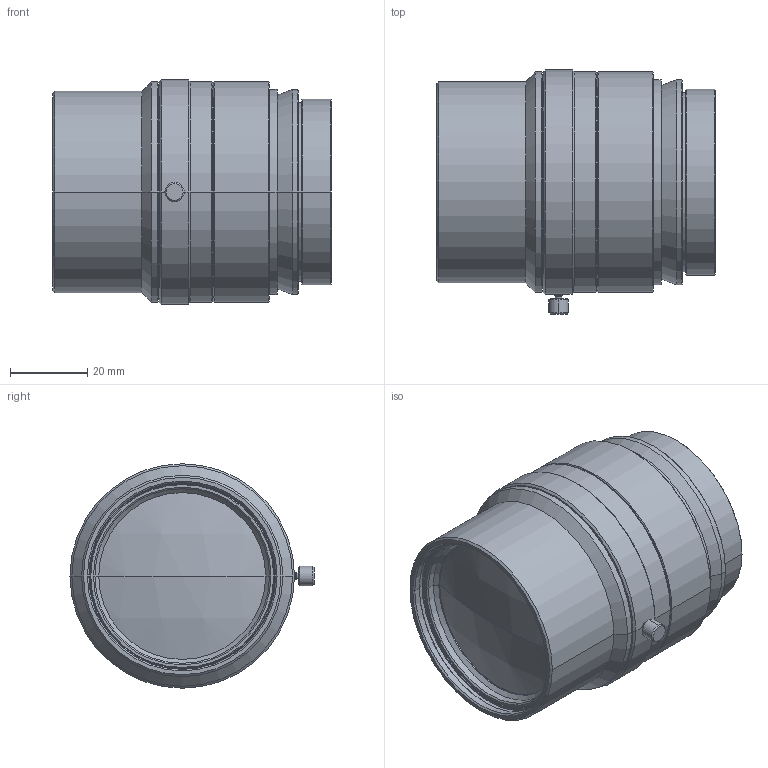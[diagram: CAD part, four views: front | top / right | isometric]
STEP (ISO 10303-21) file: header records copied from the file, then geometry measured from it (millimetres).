
FILE_DESCRIPTION (( 'STEP AP203' ), '1' );
FILE_NAME ('VS-L12035-1.4_V.STEP', '2020-01-06T02:41:39', ( '' ), ( '' ), 'SwSTEP 2.0', 'SolidWorks 2018', '' );
FILE_SCHEMA (( 'CONFIG_CONTROL_DESIGN' ));
Length unit declared in the file: millimetre
Products named in the file (1): VS-L12035-1.4_V
Bounding box: 72 x 63.05 x 58 mm (x, y, z)
Volume: 148819 mm3; surface area: 20155.2 mm2
Topology: 1 solids, 1 shells, 118 faces, 237 edges, 136 vertices
Faces by surface type: cone 60, cylinder 38, plane 16, sphere 4
Entity records: 3150 total; most frequent: DIRECTION 605, CARTESIAN_POINT 526, ORIENTED_EDGE 474, AXIS2_PLACEMENT_3D 253, EDGE_CURVE 237, VERTEX_POINT 136, CIRCLE 134, EDGE_LOOP 133
